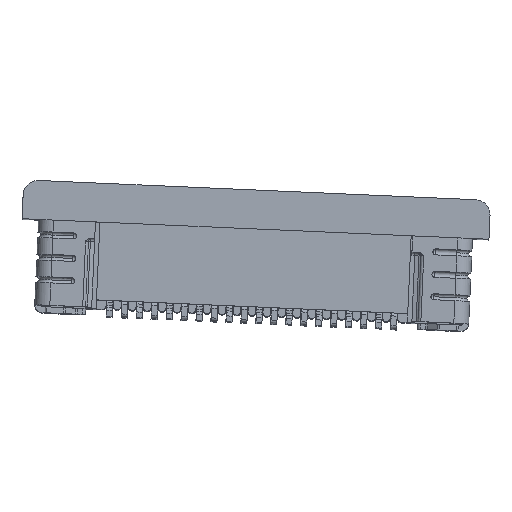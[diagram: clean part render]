
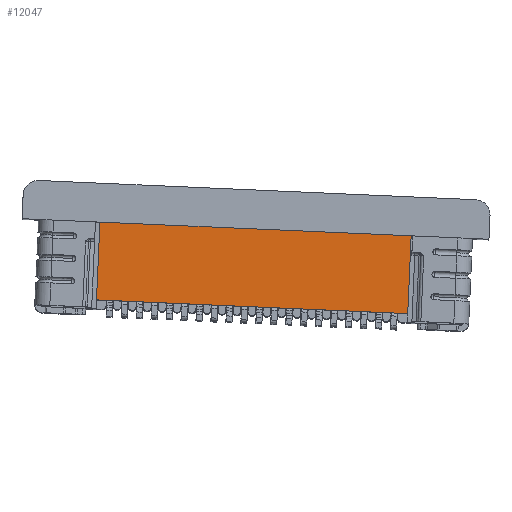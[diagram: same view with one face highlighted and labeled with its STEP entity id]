
A CAD part, front view. The second image highlights one B-rep face of the part: STEP entity #12047.
In plain terms, the highlighted planar face has unit normal (0.002, -1, 0.015) as drawn and (0, -1, 0) by its records, which use the part's own axes.
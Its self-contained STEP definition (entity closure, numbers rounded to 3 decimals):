
#776 = VERTEX_POINT ( 'NONE', #32991 ) ;
#977 = VERTEX_POINT ( 'NONE', #33063 ) ;
#4241 = CARTESIAN_POINT ( 'NONE',  ( 9.3, -1., 0.6 ) ) ;
#4515 = CARTESIAN_POINT ( 'NONE',  ( 19.7, -1., 0.6 ) ) ;
#4889 = LINE ( 'NONE', #4919, #44534 ) ;
#4919 = CARTESIAN_POINT ( 'NONE',  ( 8.821, -1., 0.6 ) ) ;
#4926 = DIRECTION ( 'NONE',  ( 1., 0., 0. ) ) ;
#9456 = EDGE_CURVE ( 'NONE', #776, #19223, #62461, .T. ) ;
#9460 = EDGE_CURVE ( 'NONE', #776, #977, #62468, .T. ) ;
#9464 = EDGE_CURVE ( 'NONE', #977, #18942, #62469, .T. ) ;
#9722 = EDGE_LOOP ( 'NONE', ( #22794, #22671, #22643, #22644 ) ) ;
#12047 = ADVANCED_FACE ( 'NONE', ( #25765 ), #25754, .T. ) ;
#14163 = AXIS2_PLACEMENT_3D ( 'NONE', #25758, #25769, #25771 ) ;
#18942 = VERTEX_POINT ( 'NONE', #4241 ) ;
#19223 = VERTEX_POINT ( 'NONE', #4515 ) ;
#19286 = EDGE_CURVE ( 'NONE', #18942, #19223, #4889, .T. ) ;
#22621 = VECTOR ( 'NONE', #62473, 1000. ) ;
#22625 = VECTOR ( 'NONE', #62478, 1000. ) ;
#22636 = VECTOR ( 'NONE', #62476, 1000. ) ;
#22643 = ORIENTED_EDGE ( 'NONE', *, *, #9460, .T. ) ;
#22644 = ORIENTED_EDGE ( 'NONE', *, *, #9464, .T. ) ;
#22671 = ORIENTED_EDGE ( 'NONE', *, *, #9456, .F. ) ;
#22794 = ORIENTED_EDGE ( 'NONE', *, *, #19286, .T. ) ;
#25754 = PLANE ( 'NONE',  #14163 ) ;
#25758 = CARTESIAN_POINT ( 'NONE',  ( 8.821, -1., 3.284 ) ) ;
#25765 = FACE_OUTER_BOUND ( 'NONE', #9722, .T. ) ;
#25769 = DIRECTION ( 'NONE',  ( 0., -1., 0. ) ) ;
#25771 = DIRECTION ( 'NONE',  ( 0., 0., -1. ) ) ;
#32991 = CARTESIAN_POINT ( 'NONE',  ( 19.7, -1., 3.2 ) ) ;
#33063 = CARTESIAN_POINT ( 'NONE',  ( 9.3, -1., 3.2 ) ) ;
#44534 = VECTOR ( 'NONE', #4926, 1000. ) ;
#62461 = LINE ( 'NONE', #62471, #22621 ) ;
#62468 = LINE ( 'NONE', #62474, #22636 ) ;
#62469 = LINE ( 'NONE', #62477, #22625 ) ;
#62471 = CARTESIAN_POINT ( 'NONE',  ( 19.7, -1., 1.9 ) ) ;
#62473 = DIRECTION ( 'NONE',  ( 0., 0., -1. ) ) ;
#62474 = CARTESIAN_POINT ( 'NONE',  ( 18.5, -1., 3.2 ) ) ;
#62476 = DIRECTION ( 'NONE',  ( -1., 0., 0. ) ) ;
#62477 = CARTESIAN_POINT ( 'NONE',  ( 9.3, -1., 1.9 ) ) ;
#62478 = DIRECTION ( 'NONE',  ( 0., 0., -1. ) ) ;
